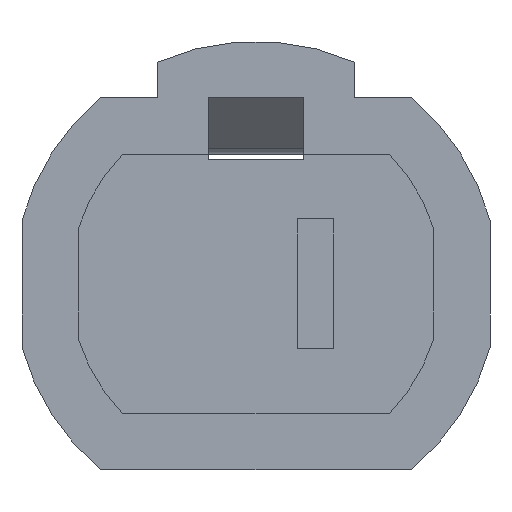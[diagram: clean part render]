
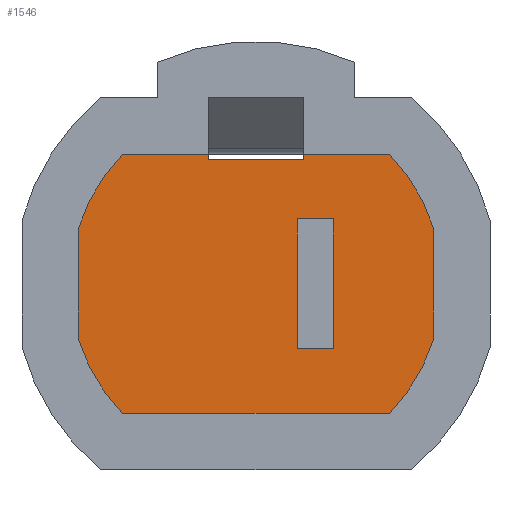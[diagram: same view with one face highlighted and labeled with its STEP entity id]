
A CAD part, left-side view. The second image highlights one B-rep face of the part: STEP entity #1546.
In plain terms, the highlighted planar face has unit normal (-1, 0, 0).
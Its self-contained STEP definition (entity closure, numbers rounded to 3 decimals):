
#1432=AXIS2_PLACEMENT_3D('Plane Axis2P3D',#1429,#1430,#1431) ;
#1443=AXIS2_PLACEMENT_3D('Circle Axis2P3D',#1441,#1442,$) ;
#1457=AXIS2_PLACEMENT_3D('Circle Axis2P3D',#1455,#1456,$) ;
#1462=AXIS2_PLACEMENT_3D('Circle Axis2P3D',#1460,#1461,$) ;
#1476=AXIS2_PLACEMENT_3D('Circle Axis2P3D',#1474,#1475,$) ;
#714=CARTESIAN_POINT('Line Origine',(0.,-1.083,2.3)) ;
#718=CARTESIAN_POINT('Vertex',(0.,-0.85,2.3)) ;
#720=CARTESIAN_POINT('Vertex',(0.,-1.316,2.3)) ;
#760=CARTESIAN_POINT('Vertex',(0.,3.416,2.3)) ;
#765=CARTESIAN_POINT('Line Origine',(0.,3.183,2.3)) ;
#769=CARTESIAN_POINT('Vertex',(0.,2.95,2.3)) ;
#1102=CARTESIAN_POINT('Vertex',(0.,0.2,2.2)) ;
#1140=CARTESIAN_POINT('Vertex',(0.,1.9,2.2)) ;
#1143=CARTESIAN_POINT('Line Origine',(0.,1.05,2.2)) ;
#1394=CARTESIAN_POINT('Line Origine',(0.,1.05,-2.3)) ;
#1398=CARTESIAN_POINT('Vertex',(0.,-1.316,-2.3)) ;
#1400=CARTESIAN_POINT('Vertex',(0.,3.416,-2.3)) ;
#1429=CARTESIAN_POINT('Axis2P3D Location',(0.,0.,-3.3)) ;
#1434=CARTESIAN_POINT('Line Origine',(0.,2.425,2.3)) ;
#1438=CARTESIAN_POINT('Vertex',(0.,1.9,2.3)) ;
#1441=CARTESIAN_POINT('Axis2P3D Location',(0.,1.05,0.)) ;
#1445=CARTESIAN_POINT('Vertex',(0.,4.2,0.984)) ;
#1448=CARTESIAN_POINT('Line Origine',(0.,4.2,0.)) ;
#1452=CARTESIAN_POINT('Vertex',(0.,4.2,-0.984)) ;
#1455=CARTESIAN_POINT('Axis2P3D Location',(0.,1.05,0.)) ;
#1460=CARTESIAN_POINT('Axis2P3D Location',(0.,1.05,0.)) ;
#1464=CARTESIAN_POINT('Vertex',(0.,-2.1,-0.984)) ;
#1467=CARTESIAN_POINT('Line Origine',(0.,-2.1,0.)) ;
#1471=CARTESIAN_POINT('Vertex',(0.,-2.1,0.984)) ;
#1474=CARTESIAN_POINT('Axis2P3D Location',(0.,1.05,0.)) ;
#1479=CARTESIAN_POINT('Line Origine',(0.,-0.325,2.3)) ;
#1483=CARTESIAN_POINT('Vertex',(0.,0.2,2.3)) ;
#1486=CARTESIAN_POINT('Line Origine',(0.,0.2,2.25)) ;
#1491=CARTESIAN_POINT('Line Origine',(0.,1.9,2.25)) ;
#1512=CARTESIAN_POINT('Line Origine',(0.,-0.32,0.)) ;
#1516=CARTESIAN_POINT('Vertex',(0.,-0.32,-1.15)) ;
#1518=CARTESIAN_POINT('Vertex',(0.,-0.32,1.15)) ;
#1521=CARTESIAN_POINT('Line Origine',(0.,0.,-1.15)) ;
#1525=CARTESIAN_POINT('Vertex',(0.,0.32,-1.15)) ;
#1528=CARTESIAN_POINT('Line Origine',(0.,0.32,0.)) ;
#1532=CARTESIAN_POINT('Vertex',(0.,0.32,1.15)) ;
#1535=CARTESIAN_POINT('Line Origine',(0.,0.,1.15)) ;
#715=DIRECTION('Vector Direction',(0.,-1.,0.)) ;
#766=DIRECTION('Vector Direction',(0.,-1.,0.)) ;
#1144=DIRECTION('Vector Direction',(0.,-1.,0.)) ;
#1395=DIRECTION('Vector Direction',(0.,1.,0.)) ;
#1430=DIRECTION('Axis2P3D Direction',(-1.,0.,-0.)) ;
#1431=DIRECTION('Axis2P3D XDirection',(-0.,0.,1.)) ;
#1435=DIRECTION('Vector Direction',(0.,-1.,0.)) ;
#1442=DIRECTION('Axis2P3D Direction',(-1.,0.,-0.)) ;
#1449=DIRECTION('Vector Direction',(0.,0.,-1.)) ;
#1456=DIRECTION('Axis2P3D Direction',(-1.,0.,-0.)) ;
#1461=DIRECTION('Axis2P3D Direction',(-1.,0.,-0.)) ;
#1468=DIRECTION('Vector Direction',(0.,0.,1.)) ;
#1475=DIRECTION('Axis2P3D Direction',(-1.,0.,-0.)) ;
#1480=DIRECTION('Vector Direction',(0.,-1.,0.)) ;
#1487=DIRECTION('Vector Direction',(0.,0.,-1.)) ;
#1492=DIRECTION('Vector Direction',(0.,0.,-1.)) ;
#1513=DIRECTION('Vector Direction',(0.,0.,1.)) ;
#1522=DIRECTION('Vector Direction',(0.,1.,0.)) ;
#1529=DIRECTION('Vector Direction',(0.,0.,-1.)) ;
#1536=DIRECTION('Vector Direction',(0.,-1.,0.)) ;
#716=VECTOR('Line Direction',#715,1.) ;
#767=VECTOR('Line Direction',#766,1.) ;
#1145=VECTOR('Line Direction',#1144,1.) ;
#1396=VECTOR('Line Direction',#1395,1.) ;
#1436=VECTOR('Line Direction',#1435,1.) ;
#1450=VECTOR('Line Direction',#1449,1.) ;
#1469=VECTOR('Line Direction',#1468,1.) ;
#1481=VECTOR('Line Direction',#1480,1.) ;
#1488=VECTOR('Line Direction',#1487,1.) ;
#1493=VECTOR('Line Direction',#1492,1.) ;
#1514=VECTOR('Line Direction',#1513,1.) ;
#1523=VECTOR('Line Direction',#1522,1.) ;
#1530=VECTOR('Line Direction',#1529,1.) ;
#1537=VECTOR('Line Direction',#1536,1.) ;
#1497=ORIENTED_EDGE('',*,*,#1440,.F.) ;
#1498=ORIENTED_EDGE('',*,*,#771,.F.) ;
#1499=ORIENTED_EDGE('',*,*,#1447,.T.) ;
#1500=ORIENTED_EDGE('',*,*,#1454,.T.) ;
#1501=ORIENTED_EDGE('',*,*,#1459,.T.) ;
#1502=ORIENTED_EDGE('',*,*,#1402,.F.) ;
#1503=ORIENTED_EDGE('',*,*,#1466,.T.) ;
#1504=ORIENTED_EDGE('',*,*,#1473,.T.) ;
#1505=ORIENTED_EDGE('',*,*,#1478,.T.) ;
#1506=ORIENTED_EDGE('',*,*,#722,.F.) ;
#1507=ORIENTED_EDGE('',*,*,#1485,.F.) ;
#1508=ORIENTED_EDGE('',*,*,#1490,.T.) ;
#1509=ORIENTED_EDGE('',*,*,#1147,.F.) ;
#1510=ORIENTED_EDGE('',*,*,#1495,.F.) ;
#1541=ORIENTED_EDGE('',*,*,#1520,.F.) ;
#1542=ORIENTED_EDGE('',*,*,#1527,.F.) ;
#1543=ORIENTED_EDGE('',*,*,#1534,.F.) ;
#1544=ORIENTED_EDGE('',*,*,#1539,.F.) ;
#1545=FACE_BOUND('',#1540,.T.) ;
#1546=ADVANCED_FACE('\X2\FF8AFF9FFF70FF82\X0\ \X2\FF8EFF9EFF83FF9EFF68FF70\X0\',(#1511,#1545),#1433,.T.) ;
#1444=CIRCLE('generated circle',#1443,3.3) ;
#1458=CIRCLE('generated circle',#1457,3.3) ;
#1463=CIRCLE('generated circle',#1462,3.3) ;
#1477=CIRCLE('generated circle',#1476,3.3) ;
#722=EDGE_CURVE('',#719,#721,#717,.T.) ;
#771=EDGE_CURVE('',#761,#770,#768,.T.) ;
#1147=EDGE_CURVE('',#1141,#1103,#1146,.T.) ;
#1402=EDGE_CURVE('',#1399,#1401,#1397,.T.) ;
#1440=EDGE_CURVE('',#770,#1439,#1437,.T.) ;
#1447=EDGE_CURVE('',#761,#1446,#1444,.T.) ;
#1454=EDGE_CURVE('',#1446,#1453,#1451,.T.) ;
#1459=EDGE_CURVE('',#1453,#1401,#1458,.T.) ;
#1466=EDGE_CURVE('',#1399,#1465,#1463,.T.) ;
#1473=EDGE_CURVE('',#1465,#1472,#1470,.T.) ;
#1478=EDGE_CURVE('',#1472,#721,#1477,.T.) ;
#1485=EDGE_CURVE('',#1484,#719,#1482,.T.) ;
#1490=EDGE_CURVE('',#1484,#1103,#1489,.T.) ;
#1495=EDGE_CURVE('',#1439,#1141,#1494,.T.) ;
#1520=EDGE_CURVE('',#1517,#1519,#1515,.T.) ;
#1527=EDGE_CURVE('',#1526,#1517,#1524,.F.) ;
#1534=EDGE_CURVE('',#1533,#1526,#1531,.T.) ;
#1539=EDGE_CURVE('',#1519,#1533,#1538,.F.) ;
#1496=EDGE_LOOP('',(#1497,#1498,#1499,#1500,#1501,#1502,#1503,#1504,#1505,#1506,#1507,#1508,#1509,#1510)) ;
#1540=EDGE_LOOP('',(#1541,#1542,#1543,#1544)) ;
#1511=FACE_OUTER_BOUND('',#1496,.T.) ;
#717=LINE('Line',#714,#716) ;
#768=LINE('Line',#765,#767) ;
#1146=LINE('Line',#1143,#1145) ;
#1397=LINE('Line',#1394,#1396) ;
#1437=LINE('Line',#1434,#1436) ;
#1451=LINE('Line',#1448,#1450) ;
#1470=LINE('Line',#1467,#1469) ;
#1482=LINE('Line',#1479,#1481) ;
#1489=LINE('Line',#1486,#1488) ;
#1494=LINE('Line',#1491,#1493) ;
#1515=LINE('Line',#1512,#1514) ;
#1524=LINE('Line',#1521,#1523) ;
#1531=LINE('Line',#1528,#1530) ;
#1538=LINE('Line',#1535,#1537) ;
#1433=PLANE('',#1432) ;
#719=VERTEX_POINT('',#718) ;
#721=VERTEX_POINT('',#720) ;
#761=VERTEX_POINT('',#760) ;
#770=VERTEX_POINT('',#769) ;
#1103=VERTEX_POINT('',#1102) ;
#1141=VERTEX_POINT('',#1140) ;
#1399=VERTEX_POINT('',#1398) ;
#1401=VERTEX_POINT('',#1400) ;
#1439=VERTEX_POINT('',#1438) ;
#1446=VERTEX_POINT('',#1445) ;
#1453=VERTEX_POINT('',#1452) ;
#1465=VERTEX_POINT('',#1464) ;
#1472=VERTEX_POINT('',#1471) ;
#1484=VERTEX_POINT('',#1483) ;
#1517=VERTEX_POINT('',#1516) ;
#1519=VERTEX_POINT('',#1518) ;
#1526=VERTEX_POINT('',#1525) ;
#1533=VERTEX_POINT('',#1532) ;
